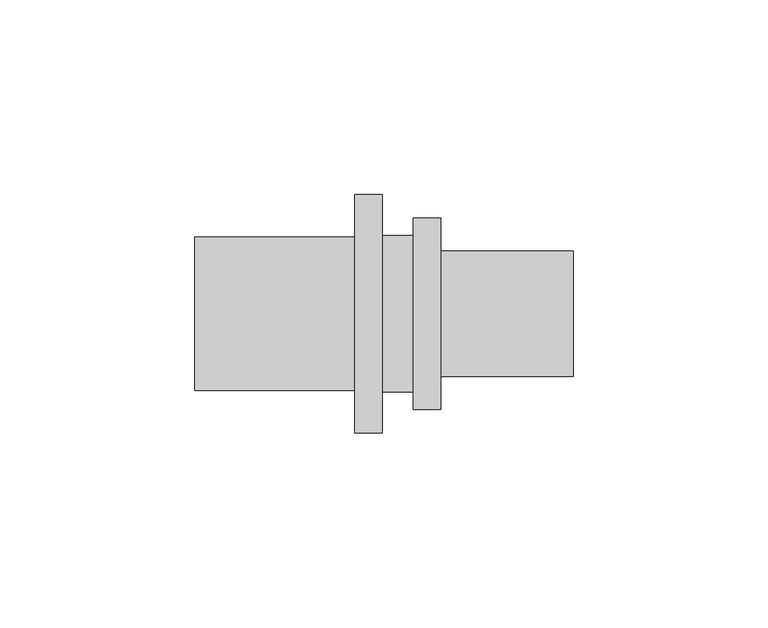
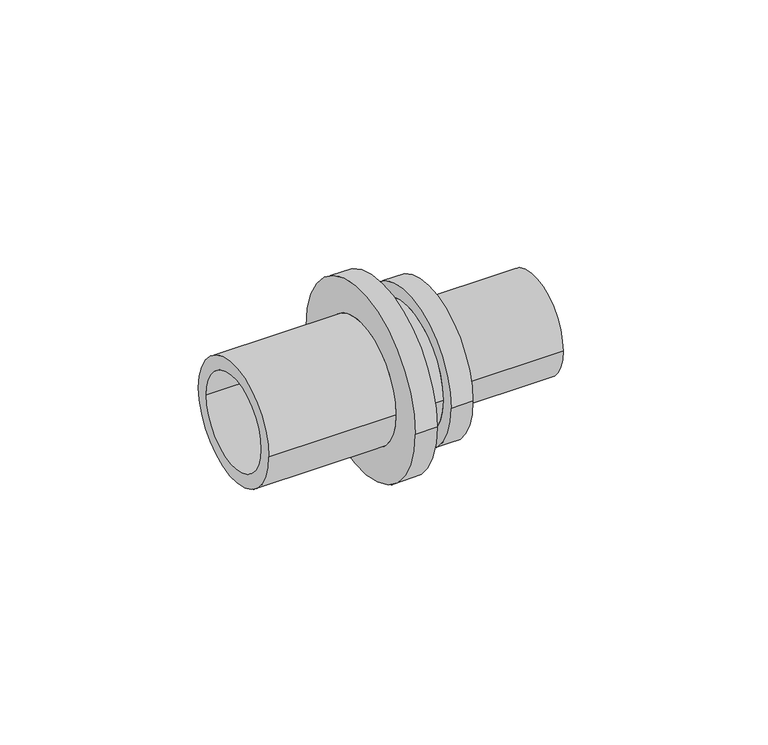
"""IFC4 building model written with IfcOpenShell, lengths in millimetres: pipe fitting geometry, RAUTITAN_Transition_RX+ : RTI RX+ Tr DE."""

from ifc_helpers import new_model, si_unit, frame, origin, place, context, project, spatial, polyline, circle_curve, source, transform, mapped, element, save
from ifc_brep_helpers import plane_surface, cylinder_surface, revolved_surface, advanced_brep


def pipe_fitting_0c5808d9(model_context):
    return source(origin(), model_context, "Body", "AdvancedBrep", [
        advanced_brep(
        [(-52.0, 15.25, 0.0), (-52.0, -15.25, 0.0), (-11.0, -15.25, 0.0), (-11.0, 15.25, 0.0), (4.0, 20.05, 0.0), (4.0, -20.05, 0.0), (-4.0, -20.05, 0.0), (-4.0, 20.05, 0.0), (11.0, 24.55, 0.0), (11.0, -24.55, 0.0), (4.0, -24.55, 0.0), (4.0, 24.55, 0.0), (45.0, 16.05, 0.0), (45.0, -16.05, 0.0), (11.0, -16.05, 0.0), (11.0, 16.05, 0.0), (-7.5, 11.75, 0.0), (-7.5, -11.75, 0.0), (45.0, -11.75, 0.0), (45.0, 11.75, 0.0), (-4.0, 30.55, 0.0), (-4.0, -30.55, 0.0), (-11.0, 19.65, 0.0), (-11.0, -19.65, 0.0), (-52.0, -19.65, 0.0), (-52.0, 19.65, 0.0), (-11.0, -30.55, 0.0), (-11.0, 30.55, 0.0)],
        [
            (0, 1, circle_curve(frame((-52.0, 0.0, 0.0), z_axis=(-1.0, 0.0, 0.0), x_axis=(0.0, -1.0, 0.0)), 15.25)),
            (1, 2),
            (2, 3, circle_curve(frame((-11.0, 0.0, 0.0), z_axis=(1.0, 0.0, 0.0), x_axis=(0.0, -1.0, 0.0)), 15.25)),
            (3, 0),
            (4, 5, circle_curve(frame((4.0, 0.0, 0.0), z_axis=(-1.0, 0.0, 0.0), x_axis=(0.0, -1.0, 0.0)), 20.05)),
            (5, 6),
            (6, 7, circle_curve(frame((-4.0, 0.0, 0.0), z_axis=(1.0, 0.0, 0.0), x_axis=(0.0, -1.0, 0.0)), 20.05)),
            (7, 4),
            (8, 9, circle_curve(frame((11.0, 0.0, 0.0), z_axis=(-1.0, 0.0, 0.0), x_axis=(0.0, -1.0, 0.0)), 24.55)),
            (9, 10),
            (10, 11, circle_curve(frame((4.0, 0.0, 0.0), z_axis=(1.0, 0.0, 0.0), x_axis=(0.0, -1.0, 0.0)), 24.55)),
            (11, 8),
            (12, 13, circle_curve(frame((45.0, 0.0, 0.0), z_axis=(-1.0, 0.0, 0.0), x_axis=(0.0, -1.0, 0.0)), 16.05)),
            (13, 14),
            (14, 15, circle_curve(frame((11.0, 0.0, 0.0), z_axis=(1.0, 0.0, 0.0), x_axis=(0.0, -1.0, 0.0)), 16.05)),
            (15, 12),
            (16, 17, circle_curve(frame((-7.5, 0.0, 0.0), z_axis=(-1.0, 0.0, 0.0), x_axis=(0.0, -1.0, 0.0)), 11.75)),
            (17, 18),
            (18, 19, circle_curve(frame((45.0, 0.0, 0.0), z_axis=(1.0, 0.0, 0.0), x_axis=(0.0, -1.0, 0.0)), 11.75)),
            (19, 16),
            (2, 17),
            (16, 3),
            (1, 0, circle_curve(frame((-52.0, 0.0, 0.0), z_axis=(-1.0, 0.0, 0.0), x_axis=(0.0, 1.0, 0.0)), 15.25)),
            (3, 2, circle_curve(frame((-11.0, 0.0, 0.0), z_axis=(1.0, 0.0, 0.0), x_axis=(0.0, 1.0, 0.0)), 15.25)),
            (20, 21, circle_curve(frame((-4.0, 0.0, 0.0), z_axis=(1.0, 0.0, 0.0), x_axis=(0.0, 1.0, 0.0)), 30.55)),
            (21, 20, circle_curve(frame((-4.0, 0.0, 0.0), z_axis=(1.0, 0.0, 0.0), x_axis=(0.0, -1.0, 0.0)), 30.55)),
            (6, 7, circle_curve(frame((-4.0, 0.0, 0.0), z_axis=(-1.0, 0.0, 0.0), x_axis=(0.0, 1.0, 0.0)), 20.05)),
            (5, 4, circle_curve(frame((4.0, 0.0, 0.0), z_axis=(-1.0, 0.0, 0.0), x_axis=(0.0, 1.0, 0.0)), 20.05)),
            (10, 11, circle_curve(frame((4.0, 0.0, 0.0), z_axis=(-1.0, 0.0, 0.0), x_axis=(0.0, 1.0, 0.0)), 24.55)),
            (9, 8, circle_curve(frame((11.0, 0.0, 0.0), z_axis=(-1.0, 0.0, 0.0), x_axis=(0.0, 1.0, 0.0)), 24.55)),
            (14, 15, circle_curve(frame((11.0, 0.0, 0.0), z_axis=(-1.0, 0.0, 0.0), x_axis=(0.0, 1.0, 0.0)), 16.05)),
            (13, 12, circle_curve(frame((45.0, 0.0, 0.0), z_axis=(-1.0, 0.0, 0.0), x_axis=(0.0, 1.0, 0.0)), 16.05)),
            (18, 19, circle_curve(frame((45.0, 0.0, 0.0), z_axis=(-1.0, 0.0, 0.0), x_axis=(0.0, 1.0, 0.0)), 11.75)),
            (17, 16, circle_curve(frame((-7.5, 0.0, 0.0), z_axis=(-1.0, 0.0, 0.0), x_axis=(0.0, 1.0, 0.0)), 11.75)),
            (22, 23, circle_curve(frame((-11.0, 0.0, 0.0), z_axis=(-1.0, 0.0, 0.0), x_axis=(0.0, -1.0, 0.0)), 19.65)),
            (23, 24),
            (24, 25, circle_curve(frame((-52.0, 0.0, 0.0), z_axis=(1.0, 0.0, 0.0), x_axis=(0.0, -1.0, 0.0)), 19.65)),
            (25, 22),
            (21, 26),
            (26, 27, circle_curve(frame((-11.0, 0.0, 0.0), z_axis=(1.0, 0.0, 0.0), x_axis=(0.0, -1.0, 0.0)), 30.55)),
            (27, 20),
            (24, 25, circle_curve(frame((-52.0, 0.0, 0.0), z_axis=(-1.0, 0.0, 0.0), x_axis=(0.0, 1.0, 0.0)), 19.65)),
            (23, 22, circle_curve(frame((-11.0, 0.0, 0.0), z_axis=(-1.0, 0.0, 0.0), x_axis=(0.0, 1.0, 0.0)), 19.65)),
            (26, 27, circle_curve(frame((-11.0, 0.0, 0.0), z_axis=(-1.0, 0.0, 0.0), x_axis=(0.0, 1.0, 0.0)), 30.55)),
        ],
        [
            revolved_surface(polyline([(-11.0, -15.25, 0.0), (-52.0, -15.25, 0.0)]), (0.0, 0.0, 0.0), (1.0, 0.0, 0.0)),
            cylinder_surface(frame((0.0, 0.0, 0.0), z_axis=(1.0, 0.0, 0.0), x_axis=(0.0, -1.0, 0.0)), 20.05),
            cylinder_surface(frame((0.0, 0.0, 0.0), z_axis=(1.0, 0.0, 0.0), x_axis=(0.0, -1.0, 0.0)), 24.55),
            cylinder_surface(frame((0.0, 0.0, 0.0), z_axis=(1.0, 0.0, 0.0), x_axis=(0.0, -1.0, 0.0)), 16.05),
            revolved_surface(polyline([(45.0, -11.75, 0.0), (-7.5, -11.75, 0.0)]), (0.0, 0.0, 0.0), (1.0, 0.0, 0.0)),
            revolved_surface(polyline([(-7.5, -11.75, 0.0), (-11.0, -15.25, 0.0)]), (0.0, 0.0, 0.0), (1.0, 0.0, 0.0)),
            revolved_surface(polyline([(-11.0, 15.25, 0.0), (-52.0, 15.25, 0.0)]), (0.0, 0.0, 0.0), (1.0, 0.0, 0.0)),
            plane_surface(frame((-4.0, 0.0, 0.0), z_axis=(1.0, 0.0, 0.0), x_axis=(0.0, 1.0, 0.0))),
            cylinder_surface(frame((0.0, 0.0, 0.0), z_axis=(1.0, 0.0, 0.0), x_axis=(0.0, 1.0, 0.0)), 20.05),
            plane_surface(frame((4.0, 0.0, 0.0), z_axis=(-1.0, 0.0, 0.0), x_axis=(0.0, 1.0, 0.0))),
            cylinder_surface(frame((0.0, 0.0, 0.0), z_axis=(1.0, 0.0, 0.0), x_axis=(0.0, 1.0, 0.0)), 24.55),
            plane_surface(frame((11.0, 0.0, 0.0), z_axis=(1.0, 0.0, 0.0), x_axis=(0.0, 1.0, 0.0))),
            cylinder_surface(frame((0.0, 0.0, 0.0), z_axis=(1.0, 0.0, 0.0), x_axis=(0.0, 1.0, 0.0)), 16.05),
            plane_surface(frame((45.0, 0.0, 0.0), z_axis=(1.0, 0.0, 0.0), x_axis=(0.0, 1.0, 0.0))),
            revolved_surface(polyline([(45.0, 11.75, 0.0), (-7.5, 11.75, 0.0)]), (0.0, 0.0, 0.0), (1.0, 0.0, 0.0)),
            revolved_surface(polyline([(-7.5, 11.75, 0.0), (-11.0, 15.25, 0.0)]), (0.0, 0.0, 0.0), (1.0, 0.0, 0.0)),
            cylinder_surface(frame((0.0, 0.0, 0.0), z_axis=(1.0, 0.0, 0.0), x_axis=(0.0, -1.0, 0.0)), 19.65),
            cylinder_surface(frame((0.0, 0.0, 0.0), z_axis=(1.0, 0.0, 0.0), x_axis=(0.0, -1.0, 0.0)), 30.55),
            plane_surface(frame((-52.0, 0.0, 0.0), z_axis=(-1.0, 0.0, 0.0), x_axis=(0.0, 1.0, 0.0))),
            cylinder_surface(frame((0.0, 0.0, 0.0), z_axis=(1.0, 0.0, 0.0), x_axis=(0.0, 1.0, 0.0)), 19.65),
            plane_surface(frame((-11.0, 0.0, 0.0), z_axis=(-1.0, 0.0, 0.0), x_axis=(0.0, 1.0, 0.0))),
            cylinder_surface(frame((0.0, 0.0, 0.0), z_axis=(1.0, 0.0, 0.0), x_axis=(0.0, 1.0, 0.0)), 30.55),
        ],
        [
            (0, [[1, 2, 3, 4]]),
            (1, [[5, 6, 7, 8]]),
            (2, [[9, 10, 11, 12]]),
            (3, [[13, 14, 15, 16]]),
            (4, [[17, 18, 19, 20]]),
            (5, [[-3, 21, -17, 22]]),
            (6, [[23, -4, 24, -2]]),
            (7, [[25, 26], [27, -7]]),
            (8, [[28, -8, -27, -6]]),
            (9, [[29, -11], [-28, -5]]),
            (10, [[30, -12, -29, -10]]),
            (11, [[-30, -9], [31, -15]]),
            (12, [[32, -16, -31, -14]]),
            (13, [[-32, -13], [33, -19]]),
            (14, [[34, -20, -33, -18]]),
            (15, [[-24, -22, -34, -21]]),
            (16, [[35, 36, 37, 38]]),
            (17, [[-26, 39, 40, 41]]),
            (18, [[42, -37], [-23, -1]]),
            (19, [[43, -38, -42, -36]]),
            (20, [[44, -40], [-43, -35]]),
            (21, [[-25, -41, -44, -39]]),
        ],
    ),
    ])


if __name__ == "__main__":
    model = new_model("IFC4")
    model_context = context("Model", 3, world=origin())
    ifc_project = project(units=[si_unit("LENGTHUNIT", "METRE", prefix="MILLI")], contexts=[model_context])
    site = spatial("IfcSite", under=ifc_project)
    building = spatial("IfcBuilding", under=site)
    placement = place(None, origin())
    pipe_fitting_shape = pipe_fitting_0c5808d9(model_context)
    element("IfcPipeFitting", 1, ObjectType="RAUTITAN_Transition_RX+ : RTI RX+ Tr DE", at=placement, inside=building, context=model_context, shape_type="MappedRepresentation", body=[
        mapped(pipe_fitting_shape, transform((0.0, 0.0, 0.0), x_axis=(1.0, 0.0, 0.0), y_axis=(0.0, 1.0, 0.0), z_axis=(0.0, 0.0, 1.0))),
    ])
    save(model, "model.ifc")
